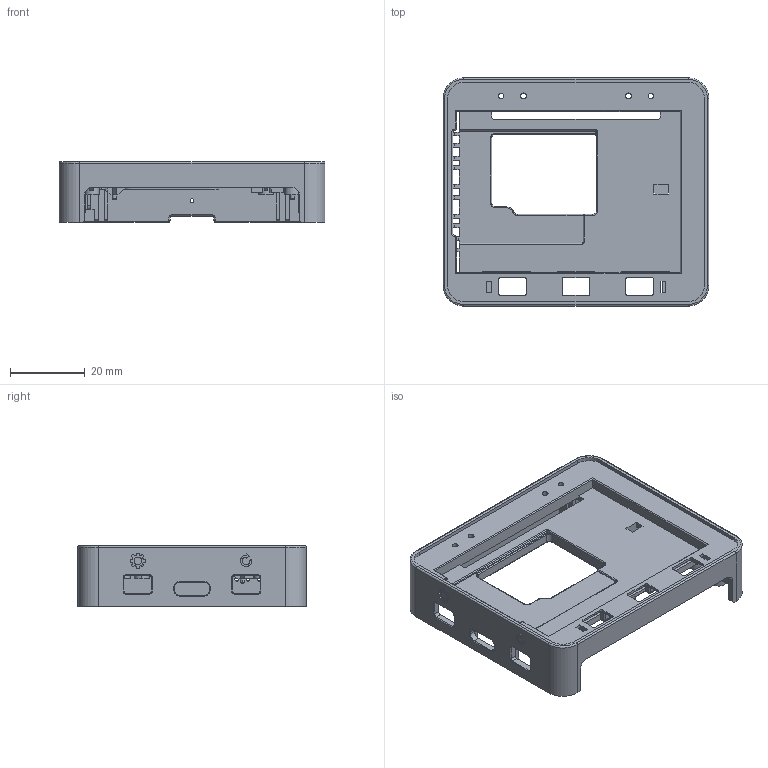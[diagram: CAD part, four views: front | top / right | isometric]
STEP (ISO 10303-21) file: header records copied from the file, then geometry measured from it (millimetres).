
FILE_DESCRIPTION (( 'STEP AP214' ), '1' );
FILE_NAME ('LITE_TOP_0104.STEP', '2022-01-04T03:40:57', ( '' ), ( '' ), 'SwSTEP 2.0', 'SolidWorks 2019', '' );
FILE_SCHEMA (( 'AUTOMOTIVE_DESIGN' ));
Length unit declared in the file: millimetre
Products named in the file (1): LITE_TOP_0104
Bounding box: 71 x 61 x 16.2 mm (x, y, z)
Volume: 13057.2 mm3; surface area: 17444.5 mm2
Topology: 1 solids, 1 shells, 1175 faces, 3243 edges, 2055 vertices
Faces by surface type: plane 653, cylinder 355, torus 104, cone 50, bspline 7, sphere 6
Entity records: 37486 total; most frequent: CARTESIAN_POINT 6796, ORIENTED_EDGE 6472, DIRECTION 6457, EDGE_CURVE 3236, LINE 2217, VECTOR 2217, AXIS2_PLACEMENT_3D 2120, VERTEX_POINT 2055
